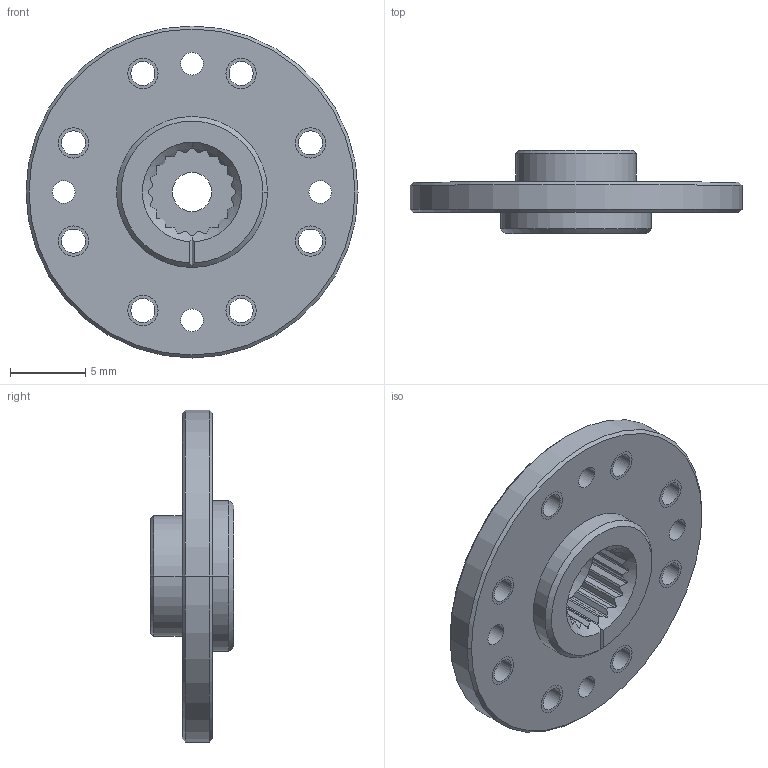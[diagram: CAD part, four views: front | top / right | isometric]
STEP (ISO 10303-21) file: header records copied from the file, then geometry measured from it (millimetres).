
FILE_DESCRIPTION((''),'2;1');
FILE_NAME('HN07_T_01','2011-11-07T',('Andy'),(''),'PRO/ENGINEER BY PARAMETRIC TECHNOLOGY CORPORATION, 2009060','PRO/ENGINEER BY PARAMETRIC TECHNOLOGY CORPORATION, 2009060','');
FILE_SCHEMA(('CONFIG_CONTROL_DESIGN'));
Length unit declared in the file: millimetre
Products named in the file (1): HN07_T_01
Bounding box: 22 x 5.5 x 22 mm (x, y, z)
Volume: 803 mm3; surface area: 1224.7 mm2
Topology: 1 solids, 9 shells, 173 faces, 478 edges, 306 vertices
Faces by surface type: cylinder 90, plane 47, cone 36
Entity records: 5876 total; most frequent: CARTESIAN_POINT 1516, ORIENTED_EDGE 912, DIRECTION 867, EDGE_CURVE 472, AXIS2_PLACEMENT_3D 349, VERTEX_POINT 306, EDGE_LOOP 204, CIRCLE 175
